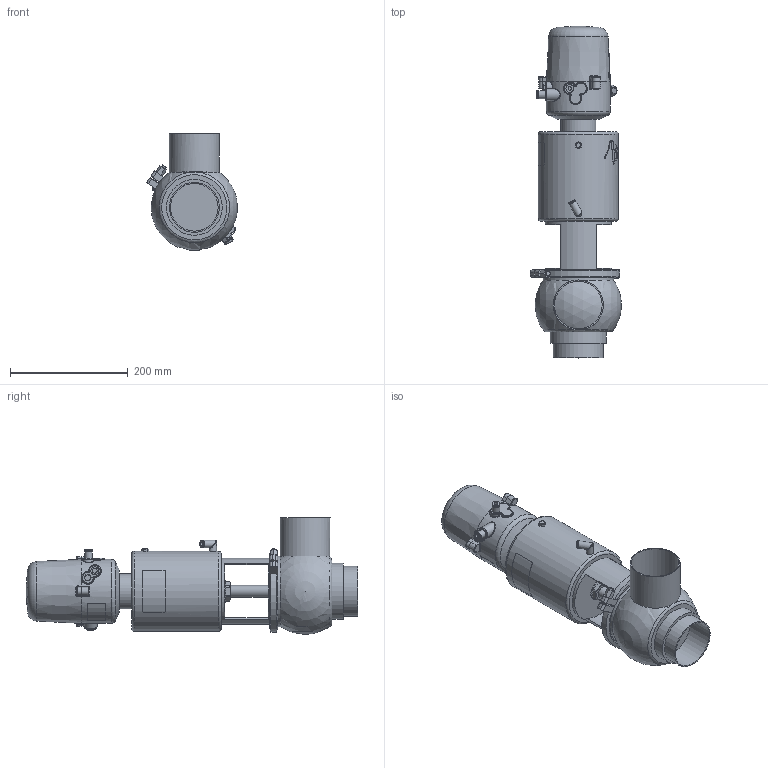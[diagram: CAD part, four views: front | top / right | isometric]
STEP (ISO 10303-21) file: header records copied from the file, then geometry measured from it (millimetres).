
FILE_DESCRIPTION (( 'STEP AP214' ), '1' );
FILE_NAME ('INNOVA N L W DIN 080 T3 AS NC & C-TOP S_10.240.16.0055.STEP', '2024-08-06T08:01:30', ( '' ), ( '' ), 'SwSTEP 2.0', 'SolidWorks 2023', '' );
FILE_SCHEMA (( 'AUTOMOTIVE_DESIGN' ));
Length unit declared in the file: millimetre
Products named in the file (7): 10.240.15.0010_DN 080; 10.240.15.0014_T3 AS P0; INNOVA N L W DIN 080 T3 AS NC & C-TOP S_10.240.16.0055; 10.240.15.0001_DN 080; 10.240.15.0002_DIN 080; 10.426.15.0001_C-TOP S - 1 EV; 10.240.15.0017_Estàndard
Assembly tree (6 placements, depth 2):
  INNOVA N L W DIN 080 T3 AS NC & C-TOP S_10.240.16.0055
    10.240.15.0002_DIN 080
    10.240.15.0010_DN 080
    10.240.15.0014_T3 AS P0
    10.240.15.0017_Estàndard
    10.426.15.0001_C-TOP S - 1 EV
    10.240.15.0001_DN 080
Bounding box: 154.93 x 565 x 197.86 mm (x, y, z)
Volume: 5450567.3 mm3; surface area: 410395.8 mm2
Topology: 6 solids, 6 shells, 1099 faces, 2648 edges, 1767 vertices
Faces by surface type: plane 375, cylinder 330, cone 191, bspline 160, torus 37, sphere 6
Full cylindrical faces by diameter (mm): 0.371 x17, 0.512 x16, 0.658 x16, 0.795 x16, 0.94 x15, 1.098 x15, 1.241 x13, 1.382 x13, 1.523 x11, 1.669 x10, 2.201 x1, 4 x2, 5.5 x2, 6 x2, 6.15 x1, 8 x4, 8.5 x1, 10 x1, 10.5 x1, 11 x2, 12.5 x3, 13 x2, 13.5 x2, 16 x1, 17 x3, 20 x3, 20.5 x1, 22 x2, 31 x1, 34.5 x3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
Entity records: 57772 total; most frequent: CARTESIAN_POINT 27817, ORIENTED_EDGE 4490, DIRECTION 3595, EDGE_CURVE 2245, VERTEX_POINT 1594, EDGE_LOOP 1545, AXIS2_PLACEMENT_3D 1469, FACE_OUTER_BOUND 1310
